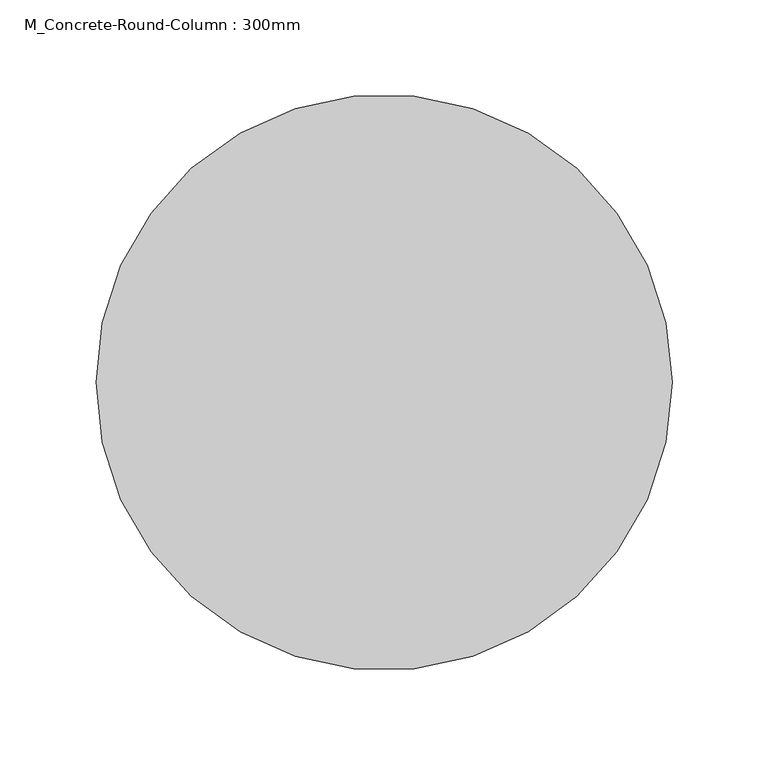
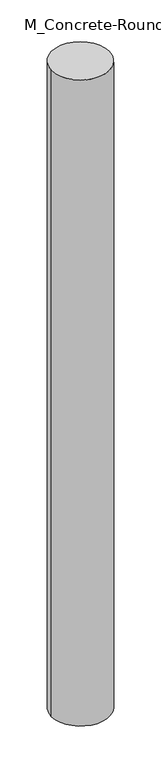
"""IFC4 building model written with IfcOpenShell, lengths in millimetres: column geometry, M_Concrete-Round-Column : 300mm."""

from ifc_helpers import new_model, si_unit, point, origin, origin_with_axes, origin_2d, place, context, project, spatial, circle_curve, trimmed, segment, composite_curve, outline, extrude, source, transform, mapped, element, save


def m_concrete_round_column_300mm_df790aaa(model_context):
    return source(origin(), model_context, "Body", "SweptSolid", [
        extrude(outline(composite_curve([segment(trimmed(circle_curve(origin_2d(), 150.0), [point((-150.0, 0.0))], [point((150.0, 0.0))], False, "CARTESIAN"), True, "CONTINUOUS"), segment(trimmed(circle_curve(origin_2d(), 150.0), [point((150.0, 0.0))], [point((-150.0, 0.0))], False, "CARTESIAN"), True, "CONTINUOUS")], self_intersect=False)), origin_with_axes(), (0.0, 0.0, 1.0), 3550.0),
    ])


if __name__ == "__main__":
    model = new_model("IFC4")
    model_context = context("Model", 3, world=origin())
    ifc_project = project(units=[si_unit("LENGTHUNIT", "METRE", prefix="MILLI")], contexts=[model_context])
    site = spatial("IfcSite", under=ifc_project)
    building = spatial("IfcBuilding", under=site)
    placement = place(None, origin())
    m_concrete_round_column_300mm_shape = m_concrete_round_column_300mm_df790aaa(model_context)
    element("IfcColumn", 1, ObjectType="M_Concrete-Round-Column : 300mm", at=placement, inside=building, context=model_context, shape_type="MappedRepresentation", body=[
        mapped(m_concrete_round_column_300mm_shape, transform((0.0, 0.0, 0.0), x_axis=(1.0, 0.0, 0.0), y_axis=(0.0, 1.0, 0.0), z_axis=(0.0, 0.0, 1.0))),
    ])
    save(model, "model.ifc")
